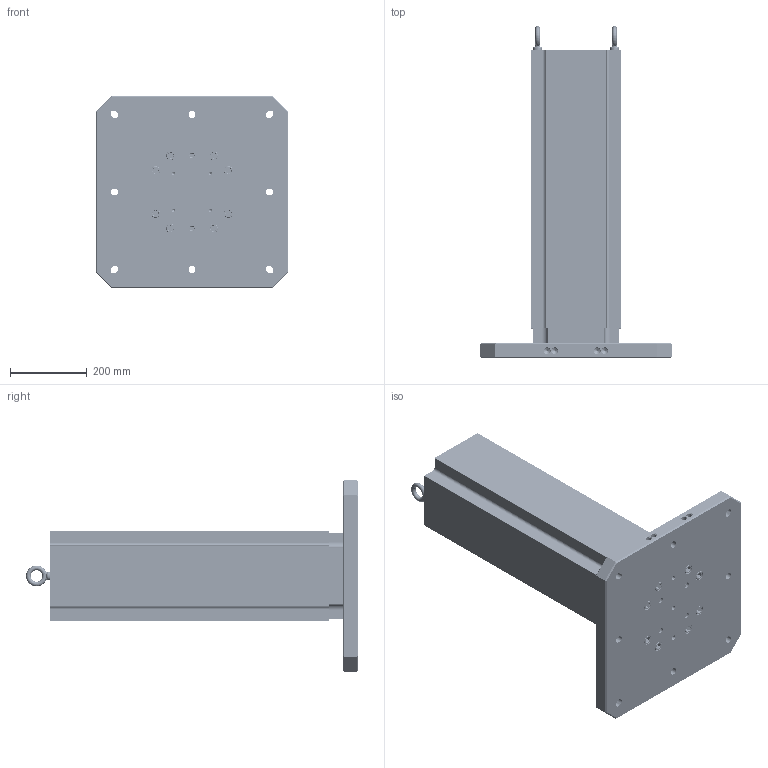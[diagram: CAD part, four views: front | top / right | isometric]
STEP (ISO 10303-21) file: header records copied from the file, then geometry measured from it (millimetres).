
FILE_DESCRIPTION (( 'STEP AP214' ), '1' );
FILE_NAME ('MTA-5004U-800.STEP', '2025-06-24T07:26:06', ( '' ), ( '' ), 'SwSTEP 2.0', 'SolidWorks 2024', '' );
FILE_SCHEMA (( 'AUTOMOTIVE_DESIGN' ));
Length unit declared in the file: millimetre
Products named in the file (8): HW.76452_dev_91290A835; HW.76172; M12X24MM.EB (McM 3040T15)_3040T15; MTA-5004U-800; RL96-5004BUA; 156x2.OR  -  O-RING, 156mm ID X 2mm THK, BUNA-N, 70A; MT-4762A_MT-4600A; RL96-14TC
Assembly tree (18 placements, depth 2):
  MTA-5004U-800
    RL96-5004BUA
    MT-4762A_MT-4600A
    156x2.OR  -  O-RING, 156mm ID X 2mm THK, BUNA-N, 70A
    RL96-14TC
    HW.76172  x4
    M12X24MM.EB (McM 3040T15)_3040T15  x2
    HW.76452_dev_91290A835  x8
Bounding box: 500 x 862.9 x 500 mm (x, y, z)
Volume: 34244319.2 mm3; surface area: 1886768.3 mm2
Topology: 18 solids, 18 shells, 2067 faces, 5534 edges, 3527 vertices
Faces by surface type: cylinder 1388, plane 317, cone 290, bspline 42, torus 30
Entity records: 33506 total; most frequent: CARTESIAN_POINT 13928, ORIENTED_EDGE 4182, DIRECTION 3969, EDGE_CURVE 2091, AXIS2_PLACEMENT_3D 1491, VERTEX_POINT 1332, LINE 987, VECTOR 987
